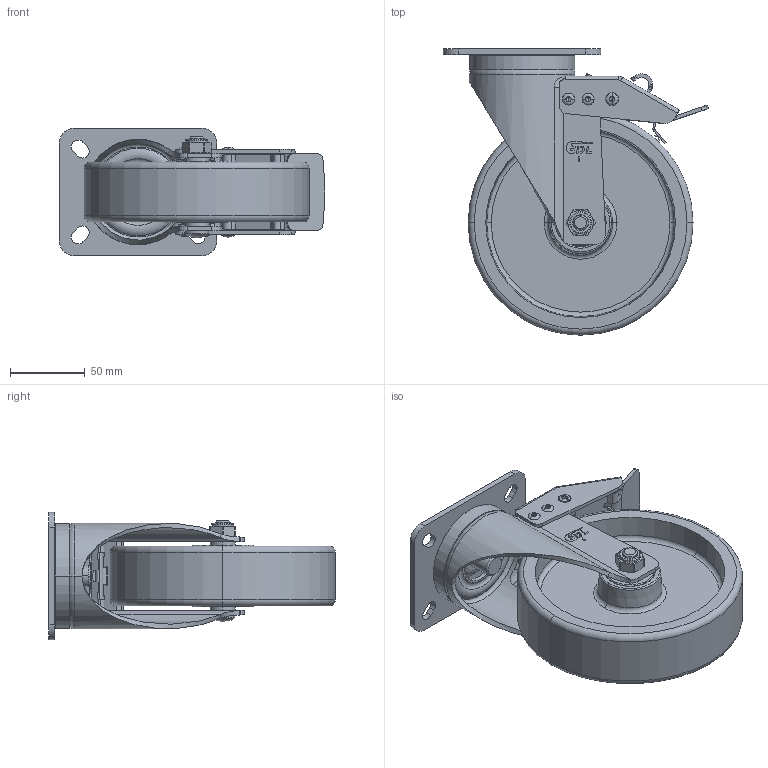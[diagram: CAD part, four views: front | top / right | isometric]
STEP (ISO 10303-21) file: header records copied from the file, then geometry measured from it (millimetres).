
FILE_DESCRIPTION((''),'2;1');
FILE_NAME('66126L_ASM_1_ASM','2024-04-27T',('Lenovo'),(''),'PRO/ENGINEER BY PARAMETRIC TECHNOLOGY CORPORATION, 2010280','PRO/ENGINEER BY PARAMETRIC TECHNOLOGY CORPORATION, 2010280','');
FILE_SCHEMA(('CONFIG_CONTROL_DESIGN'));
Length unit declared in the file: millimetre
Products named in the file (32): 6610-201_1; 6616-311_3; 6610-051_1; 6600-734_1; 676-986A_2; MANIFOLD_SOLID_BREP_15904; MANIFOLD_SOLID_BREP_16272; MANIFOLD_SOLID_BREP_16310; MANIFOLD_SOLID_BREP_16348; MANIFOLD_SOLID_BREP_16386; MANIFOLD_SOLID_BREP_16424; MANIFOLD_SOLID_BREP_16462; MANIFOLD_SOLID_BREP_16500; MANIFOLD_SOLID_BREP_16538; MANIFOLD_SOLID_BREP_16576; MANIFOLD_SOLID_BREP_16614; MANIFOLD_SOLID_BREP_16652; MANIFOLD_SOLID_BREP_16690; MANIFOLD_SOLID_BREP_16728; MANIFOLD_SOLID_BREP_16766; 6201_1_ASM; 500-66_3; 630-54A_1; 676-86A_ASM_1_ASM; 630-33A_3; 630-34_4; 6610L-525_2; 6610-511_2; 6630-401_4; 671-32_4; 670-32_3; 66126L_ASM_1_ASM
Assembly tree (36 placements, depth 4):
  66126L_ASM_1_ASM
    6610-201_1
    6616-311_3
    6610-051_1
    6600-734_1
    676-86A_ASM_1_ASM
      676-986A_2
      6201_1_ASM  x2
        MANIFOLD_SOLID_BREP_15904
        MANIFOLD_SOLID_BREP_16272
        MANIFOLD_SOLID_BREP_16310
        MANIFOLD_SOLID_BREP_16348
        MANIFOLD_SOLID_BREP_16386
        MANIFOLD_SOLID_BREP_16424
        MANIFOLD_SOLID_BREP_16462
        MANIFOLD_SOLID_BREP_16500
        MANIFOLD_SOLID_BREP_16538
        MANIFOLD_SOLID_BREP_16576
        MANIFOLD_SOLID_BREP_16614
        MANIFOLD_SOLID_BREP_16652
        MANIFOLD_SOLID_BREP_16690
        MANIFOLD_SOLID_BREP_16728
        MANIFOLD_SOLID_BREP_16766
      500-66_3  x2
      630-54A_1
    630-33A_3
    630-34_4
    6610L-525_2
    6610-511_2
    6630-401_4
    671-32_4  x4
    670-32_3
Bounding box: 176.84 x 191 x 85 mm (x, y, z)
Volume: 447936.5 mm3; surface area: 186623.7 mm2
Topology: 48 solids, 48 shells, 845 faces, 2329 edges, 1483 vertices
Faces by surface type: plane 324, cylinder 286, sphere 84, torus 73, cone 48, bspline 30
Entity records: 26245 total; most frequent: CARTESIAN_POINT 6572, DIRECTION 4228, ORIENTED_EDGE 3934, EDGE_CURVE 1967, AXIS2_PLACEMENT_3D 1622, VERTEX_POINT 1311, VECTOR 984, LINE 984
